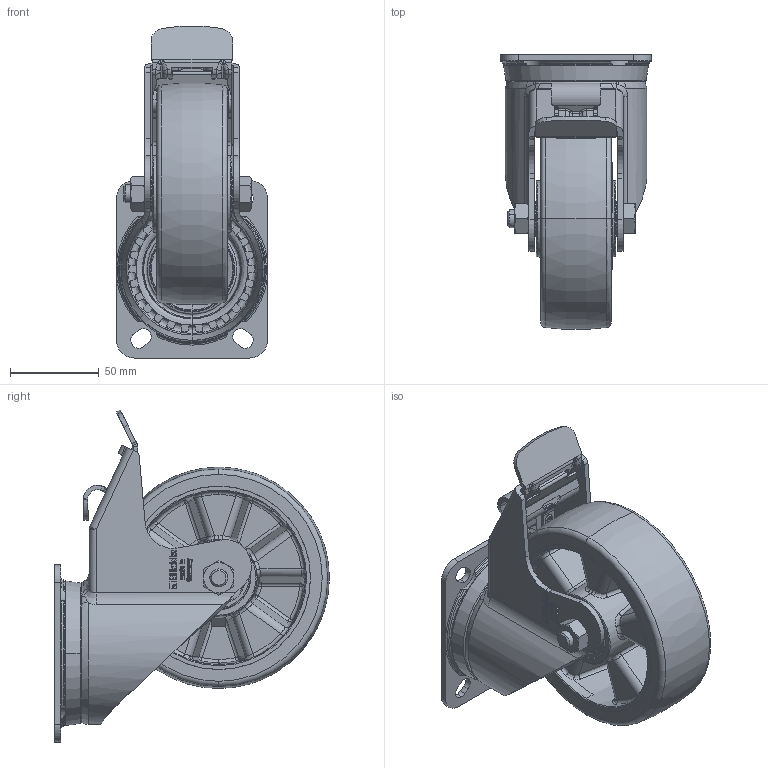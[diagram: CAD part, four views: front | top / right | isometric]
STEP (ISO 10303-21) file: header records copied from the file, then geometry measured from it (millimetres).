
FILE_DESCRIPTION (( 'STEP AP214' ), '1' );
FILE_NAME ('LK-ALTH_125K-1-FI_605741-214.step', '2022-01-11T09:59:53', ( '' ), ( '' ), 'SwSTEP 2.0', 'SolidWorks 2018', '' );
FILE_SCHEMA (( 'AUTOMOTIVE_DESIGN' ));
Length unit declared in the file: millimetre
Products named in the file (5): ALTH_3D_G16_ALTH_125_15K_265710; GH-LK-125x45-01-FIH_15x45_G16_3D; ALTH_125_15K_G16_3D; LK-ALTH_125K-1-FI_605741-214; GH-LK_125_GH-LK-125x45-01-FIH_15x45
Assembly tree (4 placements, depth 3):
  LK-ALTH_125K-1-FI_605741-214
    GH-LK_125_GH-LK-125x45-01-FIH_15x45
      GH-LK-125x45-01-FIH_15x45_G16_3D
    ALTH_3D_G16_ALTH_125_15K_265710
      ALTH_125_15K_G16_3D
Bounding box: 85 x 154.86 x 187.06 mm (x, y, z)
Volume: 411696.6 mm3; surface area: 159736.3 mm2
Topology: 2 solids, 6 shells, 3196 faces, 8487 edges, 5451 vertices
Faces by surface type: plane 1241, bspline 1189, cylinder 490, torus 145, cone 93, sphere 38
Entity records: 134568 total; most frequent: CARTESIAN_POINT 55210, ORIENTED_EDGE 16932, DIRECTION 11532, EDGE_CURVE 8466, VERTEX_POINT 5451, LINE 4326, VECTOR 4326, AXIS2_PLACEMENT_3D 3603
